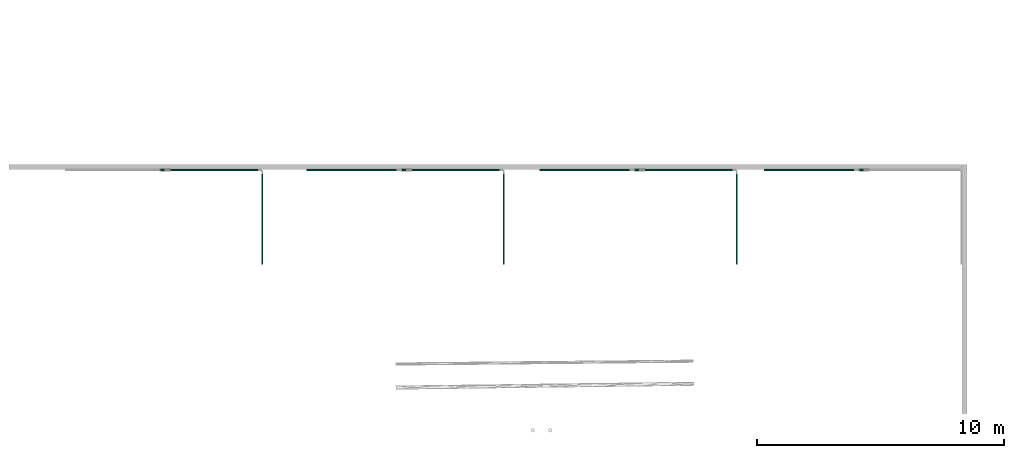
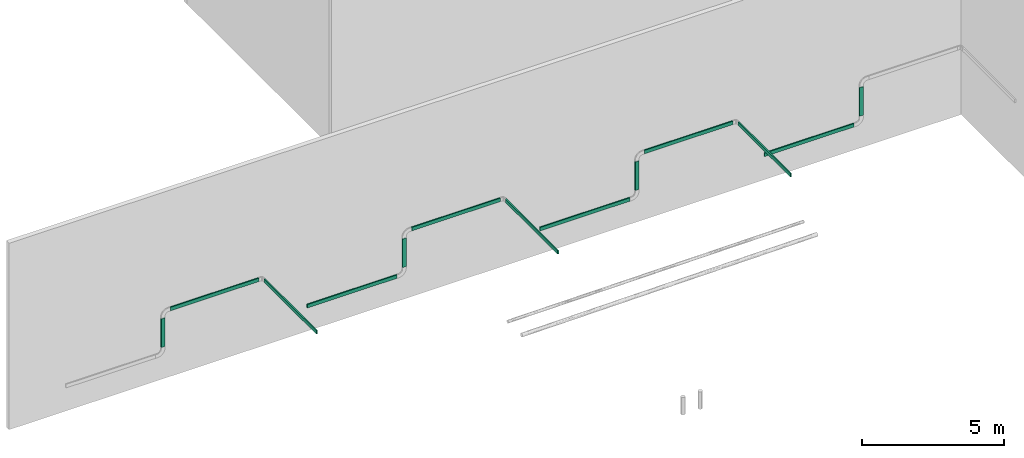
# One storey, part 12 of 197: 13 flow segments.
"""IFC2X3 building model written with IfcOpenShell, lengths in metres."""

from ifc_helpers import new_model, entity, si_unit, converted_unit, direction, frame, frame_2d, origin, origin_2d_with_axis, place, context, subcontext, project, spatial, rectangle, extrude, type_object, element, save


model = new_model("IFC2X3")

# Units and contexts
model_context = context("Model", 3, precision=1e-05, world=origin(), true_north=direction((6.123031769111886e-17, 1.0)))
body_context = subcontext(model_context, "Body", "Model", "MODEL_VIEW")
ifc_project = project(units=[si_unit("LENGTHUNIT", "METRE"), converted_unit("PLANEANGLEUNIT", "DEGREE", entity("IfcPlaneAngleMeasure", 0.017453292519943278), si_unit("PLANEANGLEUNIT", "RADIAN"), dimensions=[0, 0, 0, 0, 0, 0, 0]), si_unit("AREAUNIT", "SQUARE_METRE")], contexts=[model_context])

# Site, building, storey
site_placement = place(None, origin())
site = spatial("IfcSite", under=ifc_project, at=site_placement, Name="Default", CompositionType="ELEMENT")
building_placement = place(site_placement, origin())
building = spatial("IfcBuilding", under=site, at=building_placement, CompositionType="ELEMENT")
storey_placement = place(building_placement, origin())
storey = spatial("IfcBuildingStorey", under=building, at=storey_placement, Name="Niveau 0", CompositionType="ELEMENT", Elevation=0.0)

# Flow segments
cable_carrier_segment_type_1 = type_object("IfcCableCarrierSegmentType", Name="Chemin de câbles avec raccords:GOULOTTE", PredefinedType="CABLETRAYSEGMENT")
flow_segment_1_placement = place(storey_placement, origin())
element("IfcFlowSegment", 1, at=flow_segment_1_placement, inside=storey, type_object=cable_carrier_segment_type_1, Name="Chemin de câbles avec raccords:GOULOTTE", ObjectType="Chemin de câbles avec raccords:GOULOTTE", context=body_context, shape_type="SweptSolid", body=[
    extrude(rectangle(XDim=3.6410000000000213, YDim=0.04999999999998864, at=origin_2d_with_axis()), frame((-526.481954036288, 151.82535524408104, 1.0257853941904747)), (0.0, 0.0, 1.0), 0.15000000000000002),
])
flow_segment_2_placement = place(storey_placement, origin())
element("IfcFlowSegment", 2, at=flow_segment_2_placement, inside=storey, type_object=cable_carrier_segment_type_1, Name="Chemin de câbles avec raccords:GOULOTTE", ObjectType="Chemin de câbles avec raccords:GOULOTTE", context=body_context, shape_type="SweptSolid", body=[
    extrude(rectangle(XDim=0.04999999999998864, YDim=0.14999999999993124, at=origin_2d_with_axis()), frame((-524.361454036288, 151.82535524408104, 1.4007853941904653), z_axis=(0.0, 0.0, 1.0), x_axis=(0.0, 1.0, 0.0)), (0.0, 0.0, 1.0), 1.2250000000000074),
])
cable_carrier_segment_type_2 = type_object("IfcCableCarrierSegmentType", Name="Chemin de câbles avec raccords:GOULOTTE CONTROLE ACCES", PredefinedType="CABLETRAYSEGMENT")
flow_segment_3_placement = place(storey_placement, origin())
element("IfcFlowSegment", 3, at=flow_segment_3_placement, inside=storey, type_object=cable_carrier_segment_type_2, Name="Chemin de câbles avec raccords:GOULOTTE CONTROLE ACCES", ObjectType="Chemin de câbles avec raccords:GOULOTTE CONTROLE ACCES", context=body_context, shape_type="SweptSolid", body=[
    extrude(rectangle(XDim=3.6410000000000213, YDim=0.04999999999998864, at=origin_2d_with_axis()), frame((-535.590954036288, 151.82535524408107, 1.0257853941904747)), (0.0, 0.0, 1.0), 0.15000000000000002),
])
flow_segment_4_placement = place(storey_placement, origin())
element("IfcFlowSegment", 4, at=flow_segment_4_placement, inside=storey, type_object=cable_carrier_segment_type_2, Name="Chemin de câbles avec raccords:GOULOTTE CONTROLE ACCES", ObjectType="Chemin de câbles avec raccords:GOULOTTE CONTROLE ACCES", context=body_context, shape_type="SweptSolid", body=[
    extrude(rectangle(XDim=0.04999999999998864, YDim=0.14999999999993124, at=frame_2d((0.0, -6.93056723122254e-14), x_axis=(1.0, 0.0))), frame((-533.4704540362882, 151.82535524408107, 1.4007853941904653), z_axis=(0.0, 0.0, 1.0), x_axis=(0.0, 1.0, 0.0)), (0.0, 0.0, 1.0), 1.2250000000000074),
])
flow_segment_5_placement = place(storey_placement, origin())
element("IfcFlowSegment", 5, at=flow_segment_5_placement, inside=storey, type_object=cable_carrier_segment_type_2, Name="Chemin de câbles avec raccords:GOULOTTE CONTROLE ACCES", ObjectType="Chemin de câbles avec raccords:GOULOTTE CONTROLE ACCES", context=body_context, shape_type="SweptSolid", body=[
    extrude(rectangle(XDim=3.5918589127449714, YDim=0.04999999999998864, at=origin_2d_with_axis()), frame((-531.3745245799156, 151.82535524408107, 2.8507853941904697)), (0.0, 0.0, 1.0), 0.15000000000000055),
])
flow_segment_6_placement = place(storey_placement, origin())
element("IfcFlowSegment", 6, at=flow_segment_6_placement, inside=storey, type_object=cable_carrier_segment_type_2, Name="Chemin de câbles avec raccords:GOULOTTE CONTROLE ACCES", ObjectType="Chemin de câbles avec raccords:GOULOTTE CONTROLE ACCES", context=body_context, shape_type="SweptSolid", body=[
    extrude(rectangle(XDim=3.6711697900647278, YDim=0.05000000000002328, at=frame_2d((8.659739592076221e-15, 0.0), x_axis=(1.0, 0.0))), frame((-529.423595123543, 149.8347703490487, 2.850785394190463), z_axis=(0.0, 0.0, 1.0), x_axis=(0.0, -1.0, 0.0)), (0.0, 0.0, 1.0), 0.15000000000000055),
])
cable_carrier_segment_type_3 = type_object("IfcCableCarrierSegmentType", Name="Chemin de câbles avec raccords:GOULOTTE INCENDIE", PredefinedType="CABLETRAYSEGMENT")
flow_segment_7_placement = place(storey_placement, origin())
element("IfcFlowSegment", 7, at=flow_segment_7_placement, inside=storey, type_object=cable_carrier_segment_type_3, Name="Chemin de câbles avec raccords:GOULOTTE INCENDIE", ObjectType="Chemin de câbles avec raccords:GOULOTTE INCENDIE", context=body_context, shape_type="SweptSolid", body=[
    extrude(rectangle(XDim=3.6410000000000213, YDim=0.04999999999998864, at=origin_2d_with_axis()), frame((-545.0399540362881, 151.8253552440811, 1.0257853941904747)), (0.0, 0.0, 1.0), 0.15000000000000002),
])
flow_segment_8_placement = place(storey_placement, origin())
element("IfcFlowSegment", 8, at=flow_segment_8_placement, inside=storey, type_object=cable_carrier_segment_type_3, Name="Chemin de câbles avec raccords:GOULOTTE INCENDIE", ObjectType="Chemin de câbles avec raccords:GOULOTTE INCENDIE", context=body_context, shape_type="SweptSolid", body=[
    extrude(rectangle(XDim=0.04999999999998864, YDim=0.14999999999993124, at=origin_2d_with_axis()), frame((-542.919454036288, 151.8253552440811, 1.4007853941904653), z_axis=(0.0, 0.0, 1.0), x_axis=(0.0, 1.0, 0.0)), (0.0, 0.0, 1.0), 1.2250000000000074),
])
flow_segment_9_placement = place(storey_placement, origin())
element("IfcFlowSegment", 9, at=flow_segment_9_placement, inside=storey, type_object=cable_carrier_segment_type_3, Name="Chemin de câbles avec raccords:GOULOTTE INCENDIE", ObjectType="Chemin de câbles avec raccords:GOULOTTE INCENDIE", context=body_context, shape_type="SweptSolid", body=[
    extrude(rectangle(XDim=3.5918589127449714, YDim=0.04999999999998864, at=origin_2d_with_axis()), frame((-540.8235245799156, 151.8253552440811, 2.8507853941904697)), (0.0, 0.0, 1.0), 0.15000000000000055),
])
flow_segment_10_placement = place(storey_placement, origin())
element("IfcFlowSegment", 10, at=flow_segment_10_placement, inside=storey, type_object=cable_carrier_segment_type_3, Name="Chemin de câbles avec raccords:GOULOTTE INCENDIE", ObjectType="Chemin de câbles avec raccords:GOULOTTE INCENDIE", context=body_context, shape_type="SweptSolid", body=[
    extrude(rectangle(XDim=3.6711697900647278, YDim=0.05000000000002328, at=frame_2d((-8.659739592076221e-15, 0.0), x_axis=(1.0, 0.0))), frame((-538.8725951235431, 149.83477034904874, 2.850785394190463), z_axis=(0.0, 0.0, 1.0), x_axis=(0.0, -1.0, 0.0)), (0.0, 0.0, 1.0), 0.15000000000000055),
])
cable_carrier_segment_type_4 = type_object("IfcCableCarrierSegmentType", Name="Chemin de câbles avec raccords:GOULOTTE INTRUSION", PredefinedType="CABLETRAYSEGMENT")
flow_segment_11_placement = place(storey_placement, origin())
element("IfcFlowSegment", 11, at=flow_segment_11_placement, inside=storey, type_object=cable_carrier_segment_type_4, Name="Chemin de câbles avec raccords:GOULOTTE INTRUSION", ObjectType="Chemin de câbles avec raccords:GOULOTTE INTRUSION", context=body_context, shape_type="SweptSolid", body=[
    extrude(rectangle(XDim=0.04999999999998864, YDim=0.14999999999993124, at=origin_2d_with_axis()), frame((-552.7134540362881, 151.82535524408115, 1.4007853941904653), z_axis=(0.0, 0.0, 1.0), x_axis=(0.0, 1.0, 0.0)), (0.0, 0.0, 1.0), 1.2250000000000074),
])
flow_segment_12_placement = place(storey_placement, origin())
element("IfcFlowSegment", 12, at=flow_segment_12_placement, inside=storey, type_object=cable_carrier_segment_type_4, Name="Chemin de câbles avec raccords:GOULOTTE INTRUSION", ObjectType="Chemin de câbles avec raccords:GOULOTTE INTRUSION", context=body_context, shape_type="SweptSolid", body=[
    extrude(rectangle(XDim=3.5918589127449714, YDim=0.04999999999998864, at=origin_2d_with_axis()), frame((-550.6175245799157, 151.82535524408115, 2.8507853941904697)), (0.0, 0.0, 1.0), 0.15000000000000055),
])
flow_segment_13_placement = place(storey_placement, origin())
element("IfcFlowSegment", 13, at=flow_segment_13_placement, inside=storey, type_object=cable_carrier_segment_type_4, Name="Chemin de câbles avec raccords:GOULOTTE INTRUSION", ObjectType="Chemin de câbles avec raccords:GOULOTTE INTRUSION", context=body_context, shape_type="SweptSolid", body=[
    extrude(rectangle(XDim=3.6711697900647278, YDim=0.05000000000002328, at=frame_2d((-8.659739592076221e-15, 0.0), x_axis=(1.0, 0.0))), frame((-548.6665951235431, 149.83477034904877, 2.850785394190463), z_axis=(0.0, 0.0, 1.0), x_axis=(0.0, -1.0, 0.0)), (0.0, 0.0, 1.0), 0.15000000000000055),
])

save(model, "model.ifc")
